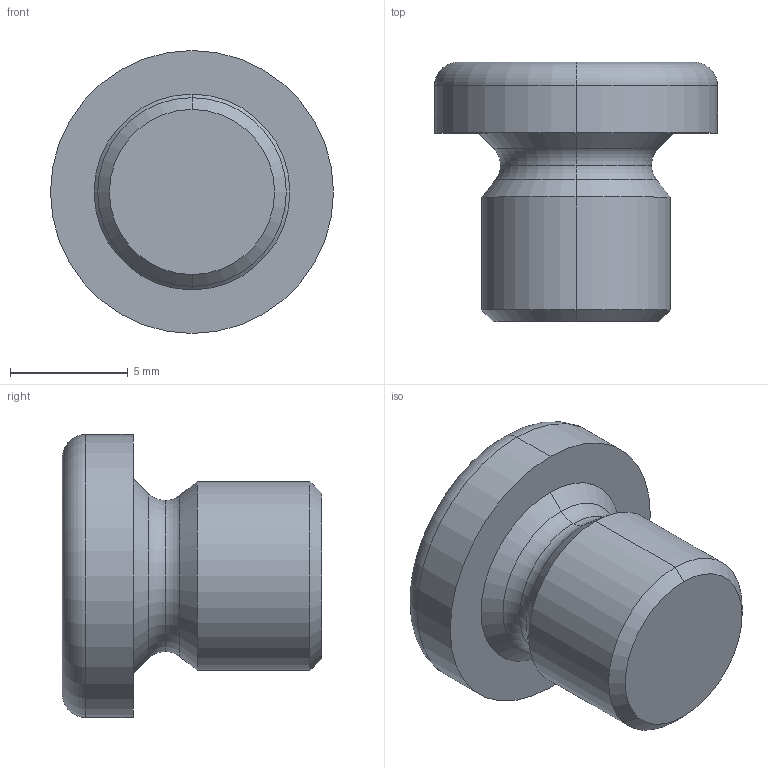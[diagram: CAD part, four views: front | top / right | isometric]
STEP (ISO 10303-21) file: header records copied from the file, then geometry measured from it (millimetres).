
FILE_DESCRIPTION (( 'STEP AP214' ), '1' );
FILE_NAME ('908-ST-M8x1-A.step', '2024-12-19T09:17:10', ( '' ), ( '' ), 'SwSTEP 2.0', 'SolidWorks 2022', '' );
FILE_SCHEMA (( 'AUTOMOTIVE_DESIGN' ));
Length unit declared in the file: millimetre
Products named in the file (1): 908-ST-M8x1-A
Bounding box: 12 x 11 x 12 mm (x, y, z)
Volume: 631.6 mm3; surface area: 587.4 mm2
Topology: 1 solids, 1 shells, 26 faces, 54 edges, 32 vertices
Faces by surface type: plane 10, torus 6, cone 6, cylinder 4
Entity records: 744 total; most frequent: DIRECTION 134, CARTESIAN_POINT 113, ORIENTED_EDGE 108, EDGE_CURVE 54, AXIS2_PLACEMENT_3D 53, VERTEX_POINT 32, LINE 28, EDGE_LOOP 28
